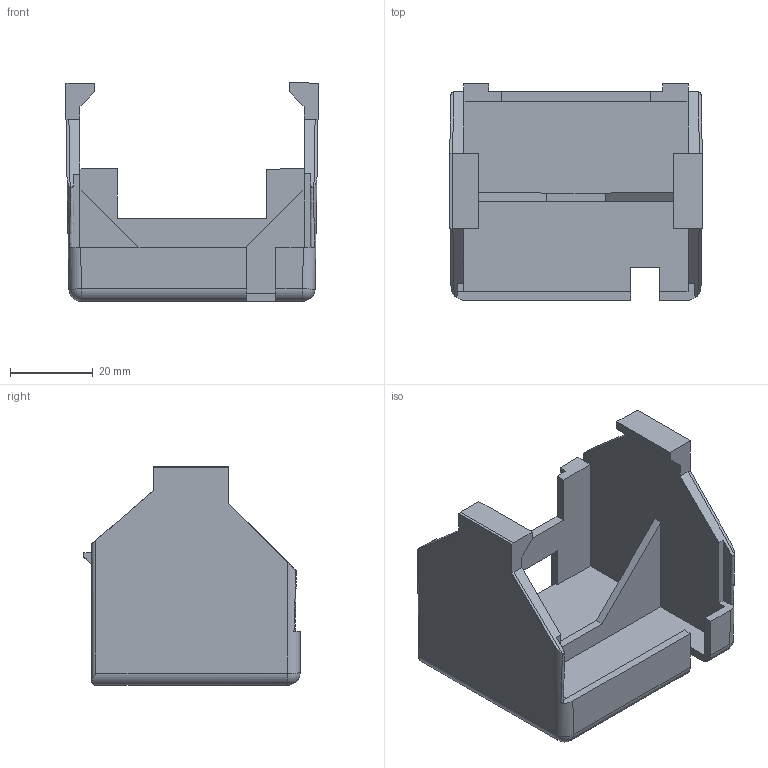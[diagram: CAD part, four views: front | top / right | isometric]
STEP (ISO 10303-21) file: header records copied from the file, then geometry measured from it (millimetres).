
FILE_DESCRIPTION(/* description */ ('Unknown'),/* implementation_level */ '2;1');
FILE_NAME(/* name */ 'vhubbard-window-brace-41',/* time_stamp */ '2024-10-28T09:07:50-05:00',/* author */ ('V Hubbard'),/* organization */ ('Hubbard Hobbies'),/* preprocessor_version */ 'ST-DEVELOPER v19.4',/* originating_system */ 'Solid Edge',/* authorisation */ 'Unknown');
FILE_SCHEMA (('AUTOMOTIVE_DESIGN {1 0 10303 214 3 1 1}'));
Length unit declared in the file: millimetre
Products named in the file (1): vhubbard-window-brace-41
Bounding box: 61.05 x 52.15 x 52.71 mm (x, y, z)
Volume: 22498.4 mm3; surface area: 19129.5 mm2
Topology: 1 solids, 1 shells, 82 faces, 238 edges, 154 vertices
Faces by surface type: plane 67, cylinder 11, sphere 2, bspline 2
Entity records: 3310 total; most frequent: CARTESIAN_POINT 558, ORIENTED_EDGE 472, DIRECTION 418, EDGE_CURVE 236, LINE 198, VECTOR 198, VERTEX_POINT 154, AXIS2_PLACEMENT_3D 110
